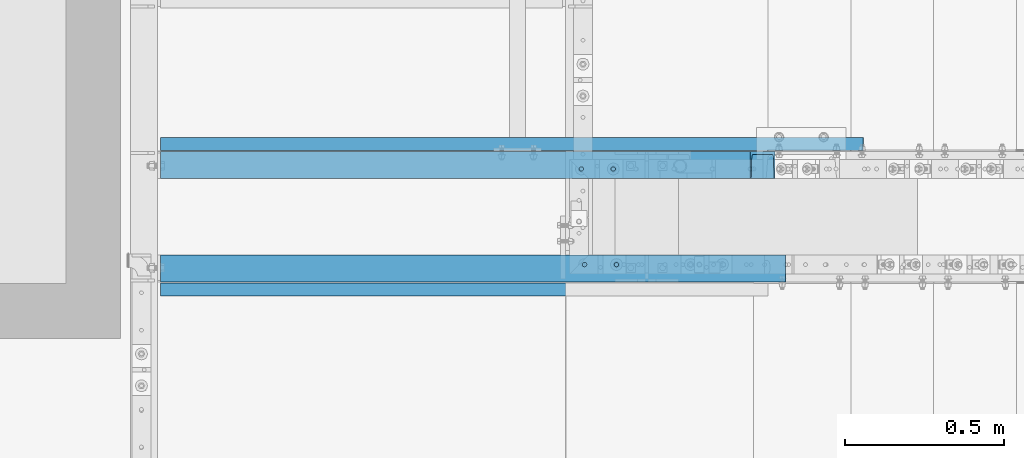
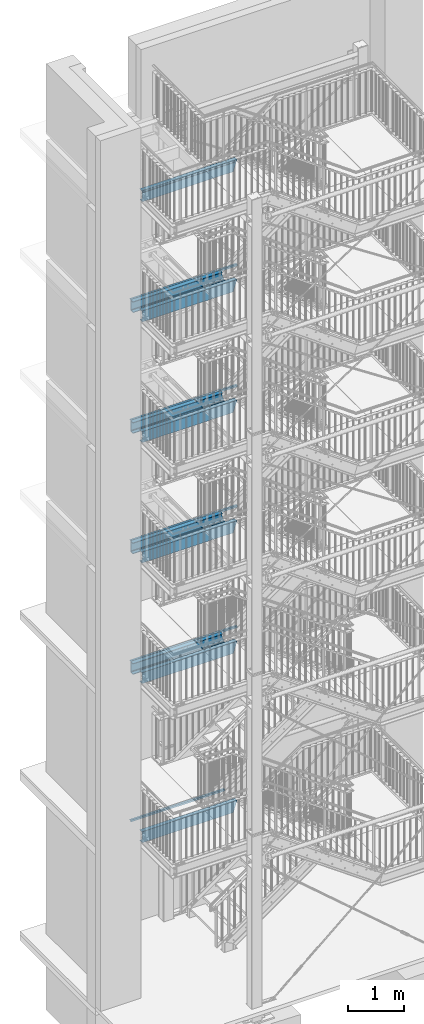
# One storey, part 119 of 831: 16 beams, 48 openings.
"""IFC2X3 building model written with IfcOpenShell, lengths in millimetres."""

from ifc_helpers import new_model, entity, si_unit, converted_unit, frame, frame_2d, origin, origin_with_axes, origin_2d_with_axis, place, context, project, spatial, circle, l_section, u_section, extrude, clip, halfspace, material, element, save


model = new_model("IFC2X3")

# Units and contexts
model_context = context("Model", 3, precision=1e-09, world=origin_with_axes())
ifc_project = project(units=[si_unit("LENGTHUNIT", "METRE", prefix="MILLI"), si_unit("AREAUNIT", "SQUARE_METRE"), si_unit("VOLUMEUNIT", "CUBIC_METRE"), converted_unit("PLANEANGLEUNIT", "DEGREE", entity("IfcPlaneAngleMeasure", 0.01745329), si_unit("PLANEANGLEUNIT", "RADIAN"), dimensions=[0, 0, 0, 0, 0, 0, 0])], contexts=[model_context])

# Site, building, storey
site_placement = place(None, origin_with_axes())
site = spatial("IfcSite", under=ifc_project, at=site_placement, Name="Site", CompositionType="ELEMENT")
building_placement = place(site_placement, origin_with_axes())
building = spatial("IfcBuilding", under=site, at=building_placement, Name="Struktur 1", CompositionType="ELEMENT")
storey_placement = place(building_placement, origin_with_axes())
storey = spatial("IfcBuildingStorey", under=building, at=storey_placement, Name="Default Storey", CompositionType="ELEMENT", Elevation=0.0)

# Beam, openings
ifc_material = material(Name="S235JR")
beam_1_placement = place(None, frame((5551.967347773, 5759.036971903, 9832.0), z_axis=(1.0, 0.0, 0.0), x_axis=(0.0, 1.0, 0.0)))
beam_1 = element("IfcBeam", 1, at=beam_1_placement, inside=storey, material=ifc_material, Name="Stringer", ObjectType="Stringer", context=model_context, shape_type="Clipping", body=[
    clip(clip(extrude(u_section(Depth=240.0, FlangeWidth=85.0, WebThickness=9.5, FlangeThickness=13.0, FilletRadius=13.0, EdgeRadius=6.5, FlangeSlope=4.574, at=frame_2d((20.2, 0.0))), origin(), (0.0, 0.0, -1.0), 2477.557715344), halfspace(frame((-5759.036971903, -9832.0, -2220.25294478), z_axis=(0.0, 0.0, 1.0), x_axis=(1.0, 0.0, 0.0)), True)), halfspace(frame((-5759.036971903, -10438.724783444, -3677.417308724), z_axis=(0.0, 0.307936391, -0.951406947), x_axis=(-1.0, 0.0, 0.0)), True)),
])
opening_1_placement = place(beam_1_placement, frame((32.7, 120.5, -883.25294478), z_axis=(0.0, 1.0, 0.0), x_axis=(-1.0, 0.0, 0.0)))
element("IfcOpeningElement", 2, at=opening_1_placement, cuts=beam_1, ObjectType="Opening", context=model_context, shape_type="SweptSolid", body=[
    extrude(circle(Radius=7.001, at=frame_2d((0.0, -7.001), x_axis=(1.0, 0.0))), origin(), (0.0, 0.0, -1.0), 14.0),
])
opening_2_placement = place(beam_1_placement, frame((32.7, 120.5, -783.25294478), z_axis=(0.0, 1.0, 0.0), x_axis=(-1.0, 0.0, 0.0)))
element("IfcOpeningElement", 3, at=opening_2_placement, cuts=beam_1, ObjectType="Opening", context=model_context, shape_type="SweptSolid", body=[
    extrude(circle(Radius=7.001, at=frame_2d((0.0, -7.001), x_axis=(1.0, 0.0))), origin(), (0.0, 0.0, -1.0), 14.0),
])
opening_3_placement = place(beam_1_placement, frame((15.699, -120.5, -745.25394478), z_axis=(0.0, -1.0, 0.0), x_axis=(1.0, 0.0, 0.0)))
element("IfcOpeningElement", 4, at=opening_3_placement, cuts=beam_1, ObjectType="Opening", context=model_context, shape_type="SweptSolid", body=[
    extrude(circle(Radius=7.001, at=frame_2d((7.001, 0.0), x_axis=(1.0, 0.0))), origin(), (0.0, 0.0, -1.0), 14.0),
])
opening_4_placement = place(beam_1_placement, frame((15.699, -120.5, -645.25394478), z_axis=(0.0, -1.0, 0.0), x_axis=(1.0, 0.0, 0.0)))
element("IfcOpeningElement", 5, at=opening_4_placement, cuts=beam_1, ObjectType="Opening", context=model_context, shape_type="SweptSolid", body=[
    extrude(circle(Radius=7.001, at=frame_2d((7.001, 0.0), x_axis=(1.0, 0.0))), origin(), (0.0, 0.0, -1.0), 14.0),
])

beam_2_placement = place(None, frame((3074.409632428, 6124.436971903, 9832.0), z_axis=(-1.0, 0.0, 0.0), x_axis=(0.0, -1.0, 0.0)))
beam_2 = element("IfcBeam", 6, at=beam_2_placement, inside=storey, material=ifc_material, Name="BottomLanding#1", ObjectType="BottomLanding#1", context=model_context, shape_type="Clipping", body=[
    clip(clip(extrude(u_section(Depth=240.0, FlangeWidth=85.0, WebThickness=9.5, FlangeThickness=13.0, FilletRadius=13.0, EdgeRadius=6.5, FlangeSlope=4.574, at=frame_2d((20.2, 0.0))), origin(), (0.0, 0.0, -1.0), 2366.776191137), halfspace(frame((6124.436971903, -9832.0, -257.304770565), z_axis=(0.0, 0.0, -1.0), x_axis=(-1.0, 0.0, 0.0)), True)), halfspace(frame((6124.436971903, -7374.852372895, -4528.957619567), z_axis=(0.0, -0.307506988, 0.951545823), x_axis=(1.0, 0.0, 0.0)), True)),
])
opening_5_placement = place(beam_2_placement, frame((-12.3, 20.0, -1420.302770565), z_axis=(1.0, 0.0, 0.0), x_axis=(0.0, 1.0, 0.0)))
element("IfcOpeningElement", 7, at=opening_5_placement, cuts=beam_2, ObjectType="Opening", context=model_context, shape_type="SweptSolid", body=[
    extrude(circle(Radius=7.001, at=frame_2d((0.0, -7.001), x_axis=(1.0, 0.0))), origin(), (0.0, 0.0, -1.0), 10.5),
])
opening_6_placement = place(beam_2_placement, frame((-12.3, 20.0, -1320.302770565), z_axis=(1.0, 0.0, 0.0), x_axis=(0.0, 1.0, 0.0)))
element("IfcOpeningElement", 8, at=opening_6_placement, cuts=beam_2, ObjectType="Opening", context=model_context, shape_type="SweptSolid", body=[
    extrude(circle(Radius=7.001, at=frame_2d((0.0, -7.001), x_axis=(1.0, 0.0))), origin(), (0.0, 0.0, -1.0), 10.5),
])
opening_7_placement = place(beam_2_placement, frame((32.7, 120.5, -1670.302770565), z_axis=(0.0, 1.0, 0.0), x_axis=(-1.0, 0.0, 0.0)))
element("IfcOpeningElement", 9, at=opening_7_placement, cuts=beam_2, ObjectType="Opening", context=model_context, shape_type="SweptSolid", body=[
    extrude(circle(Radius=7.001, at=frame_2d((0.0, -7.001), x_axis=(1.0, 0.0))), origin(), (0.0, 0.0, -1.0), 14.0),
])
opening_8_placement = place(beam_2_placement, frame((32.7, 120.5, -1570.302770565), z_axis=(0.0, 1.0, 0.0), x_axis=(-1.0, 0.0, 0.0)))
element("IfcOpeningElement", 10, at=opening_8_placement, cuts=beam_2, ObjectType="Opening", context=model_context, shape_type="SweptSolid", body=[
    extrude(circle(Radius=7.001, at=frame_2d((0.0, -7.001), x_axis=(1.0, 0.0))), origin(), (0.0, 0.0, -1.0), 14.0),
])
opening_9_placement = place(beam_2_placement, frame((22.7, -120.5, -1732.303770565), z_axis=(0.0, 1.0, 0.0), x_axis=(-1.0, 0.0, 0.0)))
element("IfcOpeningElement", 11, at=opening_9_placement, cuts=beam_2, ObjectType="Opening", context=model_context, shape_type="SweptSolid", body=[
    extrude(circle(Radius=7.001, at=origin_2d_with_axis()), origin(), (0.0, 0.0, 1.0), 14.0),
])
opening_10_placement = place(beam_2_placement, frame((22.7, -120.5, -1832.303770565), z_axis=(0.0, 1.0, 0.0), x_axis=(-1.0, 0.0, 0.0)))
element("IfcOpeningElement", 12, at=opening_10_placement, cuts=beam_2, ObjectType="Opening", context=model_context, shape_type="SweptSolid", body=[
    extrude(circle(Radius=7.001, at=origin_2d_with_axis()), origin(), (0.0, 0.0, 1.0), 14.0),
])

# Beam
beam_3_placement = place(None, frame((5535.970929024, 6160.936971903, 9940.8), z_axis=(1.0, 0.0, 0.0), x_axis=(0.0, 0.0, -1.0)))
element("IfcBeam", 13, at=beam_3_placement, inside=storey, material=ifc_material, Name="BottomLanding#3", ObjectType="BottomLanding#3", context=model_context, shape_type="SweptSolid", body=[
    extrude(l_section(Depth=40.0, Width=40.0, Thickness=4.0, FilletRadius=6.0, EdgeRadius=3.0, at=frame_2d((8.8, 8.8))), origin(), (0.0, 0.0, -1.0), 2204.257526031),
])

# Beam, openings
beam_4_placement = place(None, frame((3074.409632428, 6124.436971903, 7200.0), z_axis=(-1.0, 0.0, 0.0), x_axis=(0.0, -1.0, 0.0)))
beam_4 = element("IfcBeam", 14, at=beam_4_placement, inside=storey, material=ifc_material, Name="BottomLanding#1", ObjectType="BottomLanding#1", context=model_context, shape_type="Clipping", body=[
    clip(clip(extrude(u_section(Depth=240.0, FlangeWidth=85.0, WebThickness=9.5, FlangeThickness=13.0, FilletRadius=13.0, EdgeRadius=6.5, FlangeSlope=4.574, at=frame_2d((20.2, 0.0))), origin(), (0.0, 0.0, -1.0), 2366.919417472), halfspace(frame((6124.436971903, -7200.0, -257.304770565), z_axis=(0.0, 0.0, -1.0), x_axis=(-1.0, 0.0, 0.0)), True)), halfspace(frame((6124.436971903, -4987.874923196, -3760.219943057), z_axis=(0.0, -0.307936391, 0.951406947), x_axis=(1.0, 0.0, 0.0)), True)),
])
opening_11_placement = place(beam_4_placement, frame((-12.3, 20.0, -1420.302770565), z_axis=(1.0, 0.0, 0.0), x_axis=(0.0, 1.0, 0.0)))
element("IfcOpeningElement", 15, at=opening_11_placement, cuts=beam_4, ObjectType="Opening", context=model_context, shape_type="SweptSolid", body=[
    extrude(circle(Radius=7.001, at=frame_2d((0.0, -7.001), x_axis=(1.0, 0.0))), origin(), (0.0, 0.0, -1.0), 10.5),
])
opening_12_placement = place(beam_4_placement, frame((-12.3, 20.0, -1320.302770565), z_axis=(1.0, 0.0, 0.0), x_axis=(0.0, 1.0, 0.0)))
element("IfcOpeningElement", 16, at=opening_12_placement, cuts=beam_4, ObjectType="Opening", context=model_context, shape_type="SweptSolid", body=[
    extrude(circle(Radius=7.001, at=frame_2d((0.0, -7.001), x_axis=(1.0, 0.0))), origin(), (0.0, 0.0, -1.0), 10.5),
])
opening_13_placement = place(beam_4_placement, frame((32.7, 120.5, -1670.302770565), z_axis=(0.0, 1.0, 0.0), x_axis=(-1.0, 0.0, 0.0)))
element("IfcOpeningElement", 17, at=opening_13_placement, cuts=beam_4, ObjectType="Opening", context=model_context, shape_type="SweptSolid", body=[
    extrude(circle(Radius=7.001, at=frame_2d((0.0, -7.001), x_axis=(1.0, 0.0))), origin(), (0.0, 0.0, -1.0), 14.0),
])
opening_14_placement = place(beam_4_placement, frame((32.7, 120.5, -1570.302770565), z_axis=(0.0, 1.0, 0.0), x_axis=(-1.0, 0.0, 0.0)))
element("IfcOpeningElement", 18, at=opening_14_placement, cuts=beam_4, ObjectType="Opening", context=model_context, shape_type="SweptSolid", body=[
    extrude(circle(Radius=7.001, at=frame_2d((0.0, -7.001), x_axis=(1.0, 0.0))), origin(), (0.0, 0.0, -1.0), 14.0),
])
opening_15_placement = place(beam_4_placement, frame((22.7, -120.5, -1832.303770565), z_axis=(0.0, 1.0, 0.0), x_axis=(-1.0, 0.0, 0.0)))
element("IfcOpeningElement", 19, at=opening_15_placement, cuts=beam_4, ObjectType="Opening", context=model_context, shape_type="SweptSolid", body=[
    extrude(circle(Radius=7.001, at=origin_2d_with_axis()), origin(), (0.0, 0.0, 1.0), 14.0),
])
opening_16_placement = place(beam_4_placement, frame((22.7, -120.5, -1732.303770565), z_axis=(0.0, 1.0, 0.0), x_axis=(-1.0, 0.0, 0.0)))
element("IfcOpeningElement", 20, at=opening_16_placement, cuts=beam_4, ObjectType="Opening", context=model_context, shape_type="SweptSolid", body=[
    extrude(circle(Radius=7.001, at=origin_2d_with_axis()), origin(), (0.0, 0.0, 1.0), 14.0),
])

# Beam
beam_5_placement = place(None, frame((5535.66941246, 6160.936971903, 7308.8), z_axis=(1.0, 0.0, 0.0), x_axis=(0.0, 0.0, -1.0)))
element("IfcBeam", 21, at=beam_5_placement, inside=storey, material=ifc_material, Name="BottomLanding#3", ObjectType="BottomLanding#3", context=model_context, shape_type="SweptSolid", body=[
    extrude(l_section(Depth=40.0, Width=40.0, Thickness=4.0, FilletRadius=6.0, EdgeRadius=3.0, at=frame_2d((8.8, 8.8))), origin(), (0.0, 0.0, -1.0), 2203.956009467),
])

# Beam, openings
beam_6_placement = place(None, frame((3074.409632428, 6124.436971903, 12459.0), z_axis=(-1.0, 0.0, 0.0), x_axis=(0.0, -1.0, 0.0)))
beam_6 = element("IfcBeam", 22, at=beam_6_placement, inside=storey, material=ifc_material, Name="BottomLanding#1", ObjectType="BottomLanding#1", context=model_context, shape_type="Clipping", body=[
    clip(clip(extrude(u_section(Depth=240.0, FlangeWidth=85.0, WebThickness=9.5, FlangeThickness=13.0, FilletRadius=13.0, EdgeRadius=6.5, FlangeSlope=4.574, at=frame_2d((20.2, 0.0))), origin(), (0.0, 0.0, -1.0), 2367.005168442), halfspace(frame((6124.436971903, -12459.0, -257.304770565), z_axis=(0.0, 0.0, -1.0), x_axis=(-1.0, 0.0, 0.0)), True)), halfspace(frame((6124.436971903, -9745.042702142, -5302.956230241), z_axis=(0.0, -0.308193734, 0.951323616), x_axis=(1.0, 0.0, 0.0)), True)),
])
opening_17_placement = place(beam_6_placement, frame((-12.3, 20.0, -1420.302770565), z_axis=(1.0, 0.0, 0.0), x_axis=(0.0, 1.0, 0.0)))
element("IfcOpeningElement", 23, at=opening_17_placement, cuts=beam_6, ObjectType="Opening", context=model_context, shape_type="SweptSolid", body=[
    extrude(circle(Radius=7.001, at=frame_2d((0.0, -7.001), x_axis=(1.0, 0.0))), origin(), (0.0, 0.0, -1.0), 10.5),
])
opening_18_placement = place(beam_6_placement, frame((-12.3, 20.0, -1320.302770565), z_axis=(1.0, 0.0, 0.0), x_axis=(0.0, 1.0, 0.0)))
element("IfcOpeningElement", 24, at=opening_18_placement, cuts=beam_6, ObjectType="Opening", context=model_context, shape_type="SweptSolid", body=[
    extrude(circle(Radius=7.001, at=frame_2d((0.0, -7.001), x_axis=(1.0, 0.0))), origin(), (0.0, 0.0, -1.0), 10.5),
])
opening_19_placement = place(beam_6_placement, frame((32.7, 120.5, -1670.302770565), z_axis=(0.0, 1.0, 0.0), x_axis=(-1.0, 0.0, 0.0)))
element("IfcOpeningElement", 25, at=opening_19_placement, cuts=beam_6, ObjectType="Opening", context=model_context, shape_type="SweptSolid", body=[
    extrude(circle(Radius=7.001, at=frame_2d((0.0, -7.001), x_axis=(1.0, 0.0))), origin(), (0.0, 0.0, -1.0), 14.0),
])
opening_20_placement = place(beam_6_placement, frame((32.7, 120.5, -1570.302770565), z_axis=(0.0, 1.0, 0.0), x_axis=(-1.0, 0.0, 0.0)))
element("IfcOpeningElement", 26, at=opening_20_placement, cuts=beam_6, ObjectType="Opening", context=model_context, shape_type="SweptSolid", body=[
    extrude(circle(Radius=7.001, at=frame_2d((0.0, -7.001), x_axis=(1.0, 0.0))), origin(), (0.0, 0.0, -1.0), 14.0),
])
opening_21_placement = place(beam_6_placement, frame((22.7, -120.5, -1732.303770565), z_axis=(0.0, 1.0, 0.0), x_axis=(-1.0, 0.0, 0.0)))
element("IfcOpeningElement", 27, at=opening_21_placement, cuts=beam_6, ObjectType="Opening", context=model_context, shape_type="SweptSolid", body=[
    extrude(circle(Radius=7.001, at=origin_2d_with_axis()), origin(), (0.0, 0.0, 1.0), 14.0),
])
opening_22_placement = place(beam_6_placement, frame((22.7, -120.5, -1832.303770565), z_axis=(0.0, 1.0, 0.0), x_axis=(-1.0, 0.0, 0.0)))
element("IfcOpeningElement", 28, at=opening_22_placement, cuts=beam_6, ObjectType="Opening", context=model_context, shape_type="SweptSolid", body=[
    extrude(circle(Radius=7.001, at=origin_2d_with_axis()), origin(), (0.0, 0.0, 1.0), 14.0),
])

# Beam
beam_7_placement = place(None, frame((5535.489211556, 6160.936971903, 12567.8), z_axis=(1.0, 0.0, 0.0), x_axis=(0.0, 0.0, -1.0)))
element("IfcBeam", 29, at=beam_7_placement, inside=storey, material=ifc_material, Name="BottomLanding#3", ObjectType="BottomLanding#3", context=model_context, shape_type="SweptSolid", body=[
    extrude(l_section(Depth=40.0, Width=40.0, Thickness=4.0, FilletRadius=6.0, EdgeRadius=3.0, at=frame_2d((8.8, 8.8))), origin(), (0.0, 0.0, -1.0), 2203.775808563),
])

# Beam, openings
beam_8_placement = place(None, frame((3074.409632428, 6124.436971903, 15094.0), z_axis=(-1.0, 0.0, 0.0), x_axis=(0.0, -1.0, 0.0)))
beam_8 = element("IfcBeam", 30, at=beam_8_placement, inside=storey, material=ifc_material, Name="BottomLanding#1", ObjectType="BottomLanding#1", context=model_context, shape_type="Clipping", body=[
    clip(clip(extrude(u_section(Depth=240.0, FlangeWidth=85.0, WebThickness=9.5, FlangeThickness=13.0, FilletRadius=13.0, EdgeRadius=6.5, FlangeSlope=4.574, at=frame_2d((20.2, 0.0))), origin(), (0.0, 0.0, -1.0), 2366.575023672), halfspace(frame((6124.436971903, -15094.0, -257.304770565), z_axis=(0.0, 0.0, -1.0), x_axis=(-1.0, 0.0, 0.0)), True)), halfspace(frame((6124.436971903, -12147.607204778, -6062.628184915), z_axis=(0.0, -0.306904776, 0.951740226), x_axis=(1.0, 0.0, 0.0)), True)),
])
opening_23_placement = place(beam_8_placement, frame((-12.3, 20.0, -1420.302770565), z_axis=(1.0, 0.0, 0.0), x_axis=(0.0, 1.0, 0.0)))
element("IfcOpeningElement", 31, at=opening_23_placement, cuts=beam_8, ObjectType="Opening", context=model_context, shape_type="SweptSolid", body=[
    extrude(circle(Radius=7.001, at=frame_2d((0.0, -7.001), x_axis=(1.0, 0.0))), origin(), (0.0, 0.0, -1.0), 10.5),
])
opening_24_placement = place(beam_8_placement, frame((-12.3, 20.0, -1320.302770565), z_axis=(1.0, 0.0, 0.0), x_axis=(0.0, 1.0, 0.0)))
element("IfcOpeningElement", 32, at=opening_24_placement, cuts=beam_8, ObjectType="Opening", context=model_context, shape_type="SweptSolid", body=[
    extrude(circle(Radius=7.001, at=frame_2d((0.0, -7.001), x_axis=(1.0, 0.0))), origin(), (0.0, 0.0, -1.0), 10.5),
])
opening_25_placement = place(beam_8_placement, frame((32.7, 120.5, -1670.302770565), z_axis=(0.0, 1.0, 0.0), x_axis=(-1.0, 0.0, 0.0)))
element("IfcOpeningElement", 33, at=opening_25_placement, cuts=beam_8, ObjectType="Opening", context=model_context, shape_type="SweptSolid", body=[
    extrude(circle(Radius=7.001, at=frame_2d((0.0, -7.001), x_axis=(1.0, 0.0))), origin(), (0.0, 0.0, -1.0), 14.0),
])
opening_26_placement = place(beam_8_placement, frame((32.7, 120.5, -1570.302770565), z_axis=(0.0, 1.0, 0.0), x_axis=(-1.0, 0.0, 0.0)))
element("IfcOpeningElement", 34, at=opening_26_placement, cuts=beam_8, ObjectType="Opening", context=model_context, shape_type="SweptSolid", body=[
    extrude(circle(Radius=7.001, at=frame_2d((0.0, -7.001), x_axis=(1.0, 0.0))), origin(), (0.0, 0.0, -1.0), 14.0),
])
opening_27_placement = place(beam_8_placement, frame((22.7, -120.5, -1732.303770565), z_axis=(0.0, 1.0, 0.0), x_axis=(-1.0, 0.0, 0.0)))
element("IfcOpeningElement", 35, at=opening_27_placement, cuts=beam_8, ObjectType="Opening", context=model_context, shape_type="SweptSolid", body=[
    extrude(circle(Radius=7.001, at=origin_2d_with_axis()), origin(), (0.0, 0.0, 1.0), 14.0),
])
opening_28_placement = place(beam_8_placement, frame((22.7, -120.5, -1832.303770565), z_axis=(0.0, 1.0, 0.0), x_axis=(-1.0, 0.0, 0.0)))
element("IfcOpeningElement", 36, at=opening_28_placement, cuts=beam_8, ObjectType="Opening", context=model_context, shape_type="SweptSolid", body=[
    extrude(circle(Radius=7.001, at=origin_2d_with_axis()), origin(), (0.0, 0.0, 1.0), 14.0),
])

# Beams
beam_9_placement = place(None, frame((5536.395549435, 6160.936971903, 15202.8), z_axis=(1.0, 0.0, 0.0), x_axis=(0.0, 0.0, -1.0)))
element("IfcBeam", 37, at=beam_9_placement, inside=storey, material=ifc_material, Name="BottomLanding#3", ObjectType="BottomLanding#3", context=model_context, shape_type="SweptSolid", body=[
    extrude(l_section(Depth=40.0, Width=40.0, Thickness=4.0, FilletRadius=6.0, EdgeRadius=3.0, at=frame_2d((8.8, 8.8))), origin(), (0.0, 0.0, -1.0), 2204.682146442),
])
beam_10_placement = place(None, frame((5280.219506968, 6160.936971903, 3835.8), z_axis=(1.0, 0.0, 0.0), x_axis=(0.0, 0.0, -1.0)))
element("IfcBeam", 38, at=beam_10_placement, inside=storey, material=ifc_material, Name="BottomLanding#3", ObjectType="BottomLanding#3", context=model_context, shape_type="SweptSolid", body=[
    extrude(l_section(Depth=40.0, Width=40.0, Thickness=4.0, FilletRadius=6.0, EdgeRadius=3.0, at=frame_2d((8.8, 8.8))), origin(), (0.0, 0.0, -1.0), 1948.506103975),
])

# Beam, openings
beam_11_placement = place(None, frame((5552.034700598, 5759.036971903, 12459.0), z_axis=(1.0, 0.0, 0.0), x_axis=(0.0, 1.0, 0.0)))
beam_11 = element("IfcBeam", 39, at=beam_11_placement, inside=storey, material=ifc_material, Name="Stringer", ObjectType="Stringer", context=model_context, shape_type="Clipping", body=[
    clip(clip(extrude(u_section(Depth=240.0, FlangeWidth=85.0, WebThickness=9.5, FlangeThickness=13.0, FilletRadius=13.0, EdgeRadius=6.5, FlangeSlope=4.574, at=frame_2d((20.2, 0.0))), origin(), (0.0, 0.0, -1.0), 2477.62506817), halfspace(frame((-5759.036971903, -12459.0, -2220.320297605), z_axis=(0.0, 0.0, 1.0), x_axis=(1.0, 0.0, 0.0)), True)), halfspace(frame((-5759.036971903, -12818.039088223, -4441.028582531), z_axis=(0.0, 0.307506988, -0.951545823), x_axis=(-1.0, 0.0, 0.0)), True)),
])
opening_29_placement = place(beam_11_placement, frame((32.7, 120.5, -883.320297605), z_axis=(0.0, 1.0, 0.0), x_axis=(-1.0, 0.0, 0.0)))
element("IfcOpeningElement", 40, at=opening_29_placement, cuts=beam_11, ObjectType="Opening", context=model_context, shape_type="SweptSolid", body=[
    extrude(circle(Radius=7.001, at=frame_2d((0.0, -7.001), x_axis=(1.0, 0.0))), origin(), (0.0, 0.0, -1.0), 14.0),
])
opening_30_placement = place(beam_11_placement, frame((32.7, 120.5, -783.320297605), z_axis=(0.0, 1.0, 0.0), x_axis=(-1.0, 0.0, 0.0)))
element("IfcOpeningElement", 41, at=opening_30_placement, cuts=beam_11, ObjectType="Opening", context=model_context, shape_type="SweptSolid", body=[
    extrude(circle(Radius=7.001, at=frame_2d((0.0, -7.001), x_axis=(1.0, 0.0))), origin(), (0.0, 0.0, -1.0), 14.0),
])
opening_31_placement = place(beam_11_placement, frame((15.699, -120.5, -645.321297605), z_axis=(0.0, -1.0, 0.0), x_axis=(1.0, 0.0, 0.0)))
element("IfcOpeningElement", 42, at=opening_31_placement, cuts=beam_11, ObjectType="Opening", context=model_context, shape_type="SweptSolid", body=[
    extrude(circle(Radius=7.001, at=frame_2d((7.001, 0.0), x_axis=(1.0, 0.0))), origin(), (0.0, 0.0, -1.0), 14.0),
])
opening_32_placement = place(beam_11_placement, frame((15.699, -120.5, -745.321297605), z_axis=(0.0, -1.0, 0.0), x_axis=(1.0, 0.0, 0.0)))
element("IfcOpeningElement", 43, at=opening_32_placement, cuts=beam_11, ObjectType="Opening", context=model_context, shape_type="SweptSolid", body=[
    extrude(circle(Radius=7.001, at=frame_2d((7.001, 0.0), x_axis=(1.0, 0.0))), origin(), (0.0, 0.0, -1.0), 14.0),
])

beam_12_placement = place(None, frame((5551.927134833, 5759.036971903, 15094.0), z_axis=(1.0, 0.0, 0.0), x_axis=(0.0, 1.0, 0.0)))
beam_12 = element("IfcBeam", 44, at=beam_12_placement, inside=storey, material=ifc_material, Name="Stringer", ObjectType="Stringer", context=model_context, shape_type="Clipping", body=[
    clip(clip(extrude(u_section(Depth=240.0, FlangeWidth=85.0, WebThickness=9.5, FlangeThickness=13.0, FilletRadius=13.0, EdgeRadius=6.5, FlangeSlope=4.574, at=frame_2d((20.2, 0.0))), origin(), (0.0, 0.0, -1.0), 2477.517502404), halfspace(frame((-5759.036971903, -15094.0, -2220.21273184), z_axis=(0.0, 0.0, 1.0), x_axis=(1.0, 0.0, 0.0)), True)), halfspace(frame((-5759.036971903, -15200.485604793, -5223.230411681), z_axis=(0.0, 0.308193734, -0.951323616), x_axis=(-1.0, 0.0, 0.0)), True)),
])
opening_33_placement = place(beam_12_placement, frame((32.7, 120.5, -883.21273184), z_axis=(0.0, 1.0, 0.0), x_axis=(-1.0, 0.0, 0.0)))
element("IfcOpeningElement", 45, at=opening_33_placement, cuts=beam_12, ObjectType="Opening", context=model_context, shape_type="SweptSolid", body=[
    extrude(circle(Radius=7.001, at=frame_2d((0.0, -7.001), x_axis=(1.0, 0.0))), origin(), (0.0, 0.0, -1.0), 14.0),
])
opening_34_placement = place(beam_12_placement, frame((32.7, 120.5, -783.21273184), z_axis=(0.0, 1.0, 0.0), x_axis=(-1.0, 0.0, 0.0)))
element("IfcOpeningElement", 46, at=opening_34_placement, cuts=beam_12, ObjectType="Opening", context=model_context, shape_type="SweptSolid", body=[
    extrude(circle(Radius=7.001, at=frame_2d((0.0, -7.001), x_axis=(1.0, 0.0))), origin(), (0.0, 0.0, -1.0), 14.0),
])
opening_35_placement = place(beam_12_placement, frame((15.699, -120.5, -645.21373184), z_axis=(0.0, -1.0, 0.0), x_axis=(1.0, 0.0, 0.0)))
element("IfcOpeningElement", 47, at=opening_35_placement, cuts=beam_12, ObjectType="Opening", context=model_context, shape_type="SweptSolid", body=[
    extrude(circle(Radius=7.001, at=frame_2d((7.001, 0.0), x_axis=(1.0, 0.0))), origin(), (0.0, 0.0, -1.0), 14.0),
])
opening_36_placement = place(beam_12_placement, frame((15.699, -120.5, -745.21373184), z_axis=(0.0, -1.0, 0.0), x_axis=(1.0, 0.0, 0.0)))
element("IfcOpeningElement", 48, at=opening_36_placement, cuts=beam_12, ObjectType="Opening", context=model_context, shape_type="SweptSolid", body=[
    extrude(circle(Radius=7.001, at=frame_2d((7.001, 0.0), x_axis=(1.0, 0.0))), origin(), (0.0, 0.0, -1.0), 14.0),
])

beam_13_placement = place(None, frame((5552.129694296, 5759.036971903, 17713.999999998), z_axis=(1.0, 0.0, 0.0), x_axis=(0.0, 1.0, 0.0)))
beam_13 = element("IfcBeam", 49, at=beam_13_placement, inside=storey, material=ifc_material, Name="Stringer", ObjectType="Stringer", context=model_context, shape_type="Clipping", body=[
    clip(clip(extrude(u_section(Depth=240.0, FlangeWidth=85.0, WebThickness=9.5, FlangeThickness=13.0, FilletRadius=13.0, EdgeRadius=6.5, FlangeSlope=4.574, at=frame_2d((20.2, 0.0))), origin(), (0.0, 0.0, -1.0), 2477.720061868), halfspace(frame((-5759.036971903, -17713.999999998, -2220.415291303), z_axis=(0.0, 0.0, 1.0), x_axis=(1.0, 0.0, 0.0)), True)), halfspace(frame((-5759.036971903, -17580.048532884, -5967.525639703), z_axis=(0.0, 0.306904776, -0.951740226), x_axis=(-1.0, 0.0, 0.0)), True)),
])
opening_37_placement = place(beam_13_placement, frame((32.7, 120.5, -550.914791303), z_axis=(0.0, 1.0, 0.0), x_axis=(-1.0, 0.0, 0.0)))
element("IfcOpeningElement", 50, at=opening_37_placement, cuts=beam_13, ObjectType="Opening", context=model_context, shape_type="SweptSolid", body=[
    extrude(circle(Radius=7.001, at=frame_2d((0.0, -7.001), x_axis=(1.0, 0.0))), origin(), (0.0, 0.0, -1.0), 14.0),
])
opening_38_placement = place(beam_13_placement, frame((32.7, 120.5, -450.914791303), z_axis=(0.0, 1.0, 0.0), x_axis=(-1.0, 0.0, 0.0)))
element("IfcOpeningElement", 51, at=opening_38_placement, cuts=beam_13, ObjectType="Opening", context=model_context, shape_type="SweptSolid", body=[
    extrude(circle(Radius=7.001, at=frame_2d((0.0, -7.001), x_axis=(1.0, 0.0))), origin(), (0.0, 0.0, -1.0), 14.0),
])
opening_39_placement = place(beam_13_placement, frame((15.699, -120.5, -745.416291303), z_axis=(0.0, -1.0, 0.0), x_axis=(1.0, 0.0, 0.0)))
element("IfcOpeningElement", 52, at=opening_39_placement, cuts=beam_13, ObjectType="Opening", context=model_context, shape_type="SweptSolid", body=[
    extrude(circle(Radius=7.001, at=frame_2d((7.001, 0.0), x_axis=(1.0, 0.0))), origin(), (0.0, 0.0, -1.0), 14.0),
])
opening_40_placement = place(beam_13_placement, frame((15.699, -120.5, -645.416291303), z_axis=(0.0, -1.0, 0.0), x_axis=(1.0, 0.0, 0.0)))
element("IfcOpeningElement", 53, at=opening_40_placement, cuts=beam_13, ObjectType="Opening", context=model_context, shape_type="SweptSolid", body=[
    extrude(circle(Radius=7.001, at=frame_2d((7.001, 0.0), x_axis=(1.0, 0.0))), origin(), (0.0, 0.0, -1.0), 14.0),
])

# Beam
beam_14_placement = place(None, frame((3331.713402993, 5722.536971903, 17822.799999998), z_axis=(-1.0, 0.0, 0.0), x_axis=(0.0, 0.0, -1.0)))
element("IfcBeam", 54, at=beam_14_placement, inside=storey, material=ifc_material, Name="TopLanding#3", ObjectType="TopLanding#3", context=model_context, shape_type="SweptSolid", body=[
    extrude(l_section(Depth=40.0, Width=40.0, Thickness=4.0, FilletRadius=6.0, EdgeRadius=3.0, at=frame_2d((8.8, 8.8))), origin(), (0.0, 0.0, -1.0), 1905.0),
])

# Beam, openings
beam_15_placement = place(None, frame((5552.525390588, 5759.036971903, 3727.0), z_axis=(1.0, 0.0, 0.0), x_axis=(0.0, 1.0, 0.0)))
beam_15 = element("IfcBeam", 55, at=beam_15_placement, inside=storey, material=ifc_material, Name="Stringer", ObjectType="Stringer", context=model_context, shape_type="Clipping", body=[
    clip(clip(extrude(u_section(Depth=240.0, FlangeWidth=85.0, WebThickness=9.5, FlangeThickness=13.0, FilletRadius=13.0, EdgeRadius=6.5, FlangeSlope=4.574, at=frame_2d((20.2, 0.0))), origin(), (0.0, 0.0, -1.0), 2478.11575816), halfspace(frame((-5759.036971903, -3727.0, -2220.810987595), z_axis=(0.0, 0.0, 1.0), x_axis=(1.0, 0.0, 0.0)), True)), halfspace(frame((-5759.036971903, -4905.321546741, -1865.767544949), z_axis=(0.0, 0.304437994, -0.952532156), x_axis=(-1.0, 0.0, 0.0)), True)),
])
opening_41_placement = place(beam_15_placement, frame((32.7, 120.5, -883.810987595), z_axis=(0.0, 1.0, 0.0), x_axis=(-1.0, 0.0, 0.0)))
element("IfcOpeningElement", 56, at=opening_41_placement, cuts=beam_15, ObjectType="Opening", context=model_context, shape_type="SweptSolid", body=[
    extrude(circle(Radius=7.001, at=frame_2d((0.0, -7.001), x_axis=(1.0, 0.0))), origin(), (0.0, 0.0, -1.0), 14.0),
])
opening_42_placement = place(beam_15_placement, frame((32.7, 120.5, -783.810987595), z_axis=(0.0, 1.0, 0.0), x_axis=(-1.0, 0.0, 0.0)))
element("IfcOpeningElement", 57, at=opening_42_placement, cuts=beam_15, ObjectType="Opening", context=model_context, shape_type="SweptSolid", body=[
    extrude(circle(Radius=7.001, at=frame_2d((0.0, -7.001), x_axis=(1.0, 0.0))), origin(), (0.0, 0.0, -1.0), 14.0),
])
opening_43_placement = place(beam_15_placement, frame((15.699, -120.5, -645.811987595), z_axis=(0.0, -1.0, 0.0), x_axis=(1.0, 0.0, 0.0)))
element("IfcOpeningElement", 58, at=opening_43_placement, cuts=beam_15, ObjectType="Opening", context=model_context, shape_type="SweptSolid", body=[
    extrude(circle(Radius=7.001, at=frame_2d((7.001, 0.0), x_axis=(1.0, 0.0))), origin(), (0.0, 0.0, -1.0), 14.0),
])
opening_44_placement = place(beam_15_placement, frame((15.699, -120.5, -745.811987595), z_axis=(0.0, -1.0, 0.0), x_axis=(1.0, 0.0, 0.0)))
element("IfcOpeningElement", 59, at=opening_44_placement, cuts=beam_15, ObjectType="Opening", context=model_context, shape_type="SweptSolid", body=[
    extrude(circle(Radius=7.001, at=frame_2d((7.001, 0.0), x_axis=(1.0, 0.0))), origin(), (0.0, 0.0, -1.0), 14.0),
])

beam_16_placement = place(None, frame((5552.992298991, 5759.036971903, 7200.0), z_axis=(1.0, 0.0, 0.0), x_axis=(0.0, 1.0, 0.0)))
beam_16 = element("IfcBeam", 60, at=beam_16_placement, inside=storey, material=ifc_material, Name="Stringer", ObjectType="Stringer", context=model_context, shape_type="Clipping", body=[
    clip(clip(extrude(u_section(Depth=240.0, FlangeWidth=85.0, WebThickness=9.5, FlangeThickness=13.0, FilletRadius=13.0, EdgeRadius=6.5, FlangeSlope=4.574, at=frame_2d((20.2, 0.0))), origin(), (0.0, 0.0, -1.0), 2478.582666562), halfspace(frame((-5759.036971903, -7200.0, -2221.277895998), z_axis=(0.0, 0.0, 1.0), x_axis=(1.0, 0.0, 0.0)), True)), halfspace(frame((-5759.036971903, -8056.363400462, -2845.904323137), z_axis=(0.0, 0.301609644, -0.953431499), x_axis=(-1.0, 0.0, 0.0)), True)),
])
opening_45_placement = place(beam_16_placement, frame((32.7, 120.5, -884.277895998), z_axis=(0.0, 1.0, 0.0), x_axis=(-1.0, 0.0, 0.0)))
element("IfcOpeningElement", 61, at=opening_45_placement, cuts=beam_16, ObjectType="Opening", context=model_context, shape_type="SweptSolid", body=[
    extrude(circle(Radius=7.001, at=frame_2d((0.0, -7.001), x_axis=(1.0, 0.0))), origin(), (0.0, 0.0, -1.0), 14.0),
])
opening_46_placement = place(beam_16_placement, frame((32.7, 120.5, -784.277895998), z_axis=(0.0, 1.0, 0.0), x_axis=(-1.0, 0.0, 0.0)))
element("IfcOpeningElement", 62, at=opening_46_placement, cuts=beam_16, ObjectType="Opening", context=model_context, shape_type="SweptSolid", body=[
    extrude(circle(Radius=7.001, at=frame_2d((0.0, -7.001), x_axis=(1.0, 0.0))), origin(), (0.0, 0.0, -1.0), 14.0),
])
opening_47_placement = place(beam_16_placement, frame((15.699, -120.5, -646.278895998), z_axis=(0.0, -1.0, 0.0), x_axis=(1.0, 0.0, 0.0)))
element("IfcOpeningElement", 63, at=opening_47_placement, cuts=beam_16, ObjectType="Opening", context=model_context, shape_type="SweptSolid", body=[
    extrude(circle(Radius=7.001, at=frame_2d((7.001, 0.0), x_axis=(1.0, 0.0))), origin(), (0.0, 0.0, -1.0), 14.0),
])
opening_48_placement = place(beam_16_placement, frame((15.699, -120.5, -746.278895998), z_axis=(0.0, -1.0, 0.0), x_axis=(1.0, 0.0, 0.0)))
element("IfcOpeningElement", 64, at=opening_48_placement, cuts=beam_16, ObjectType="Opening", context=model_context, shape_type="SweptSolid", body=[
    extrude(circle(Radius=7.001, at=frame_2d((7.001, 0.0), x_axis=(1.0, 0.0))), origin(), (0.0, 0.0, -1.0), 14.0),
])

save(model, "model.ifc")
